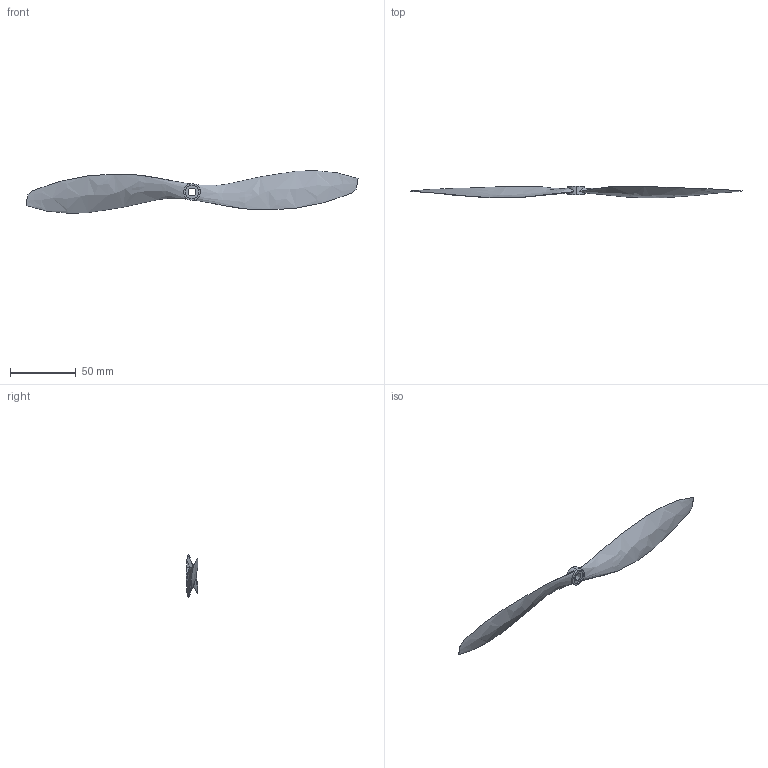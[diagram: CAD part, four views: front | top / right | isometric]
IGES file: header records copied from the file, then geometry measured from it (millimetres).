
Start section: SolidWorks IGES file using NURBS representation for surfaces
Global section: file name: C:\Users\4745G\Downloads\propeller_for_ANSYS.IGS; native system: SolidWorks 2012; preprocessor: SolidWorks 2012; author: 4745G; date: 130410.124150; units: millimetre
Bounding box: 253.3 x 9.1 x 32.52 mm (x, y, z)
Volume: 5186.2 mm3; surface area: 11730.7 mm2
Topology: 1 solids, 1 shells, 15 faces, 182 edges, 208 vertices
Faces by surface type: bspline 15
